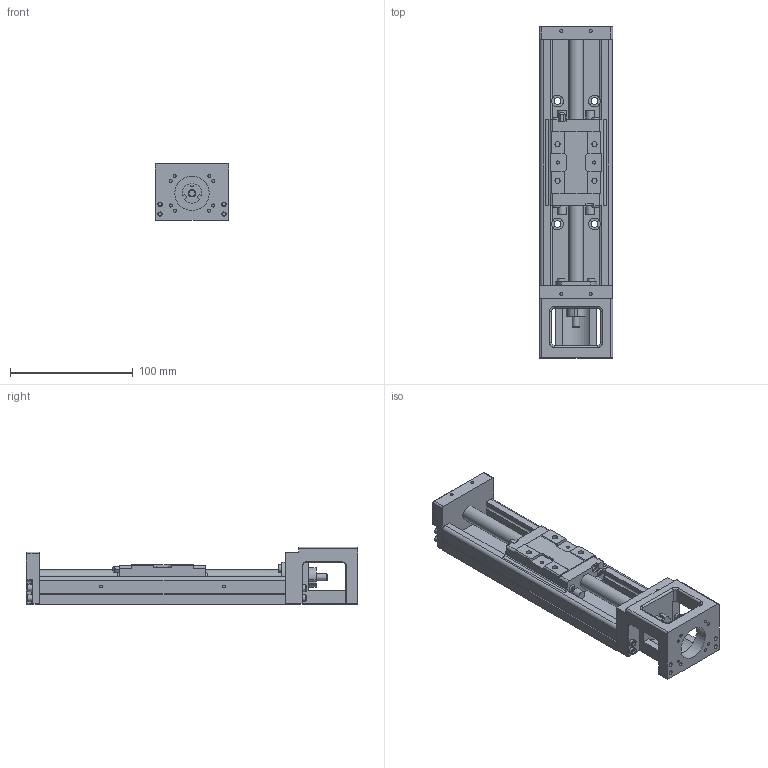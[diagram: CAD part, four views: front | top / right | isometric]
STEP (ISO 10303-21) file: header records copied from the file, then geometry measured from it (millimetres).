
FILE_DESCRIPTION(/* description */ (''),/* implementation_level */ '2;1');
FILE_NAME(/* name */ 'FKL60E110 05(10)C7.stp',/* time_stamp */ '2019-01-30T11:13:31+08:00',/* author */ (''),/* organization */ (''),/* preprocessor_version */ 'ST-DEVELOPER v16',/* originating_system */ 'SIEMENS PLM Software NX 10.0',/* authorisation */ '');
FILE_SCHEMA (('AUTOMOTIVE_DESIGN { 1 0 10303 214 3 1 1 1 }'));
Length unit declared in the file: millimetre
Products named in the file (3): 滑台.KK60.90-A1; 轨道.KK60-200; FKL60E110 05(10)C7
Assembly tree (2 placements, depth 2):
  FKL60E110 05(10)C7
    轨道.KK60-200
    滑台.KK60.90-A1
Bounding box: 60 x 270 x 47 mm (x, y, z)
Volume: 328417 mm3; surface area: 91976.3 mm2
Topology: 2 solids, 2 shells, 486 faces, 1243 edges, 806 vertices
Faces by surface type: plane 305, cylinder 137, torus 22, cone 13, sphere 9
Full cylindrical faces by diameter (mm): 2.05 x4, 2.5 x14, 3.3 x1, 3.5 x4, 4.2 x4, 5.5 x12, 6 x5, 7 x4, 9.5 x4, 11 x1, 12 x2, 28 x1
Entity records: 14222 total; most frequent: CARTESIAN_POINT 2418, DIRECTION 2406, ORIENTED_EDGE 2224, EDGE_CURVE 1112, AXIS2_PLACEMENT_3D 813, LINE 780, VECTOR 780, VERTEX_POINT 757
